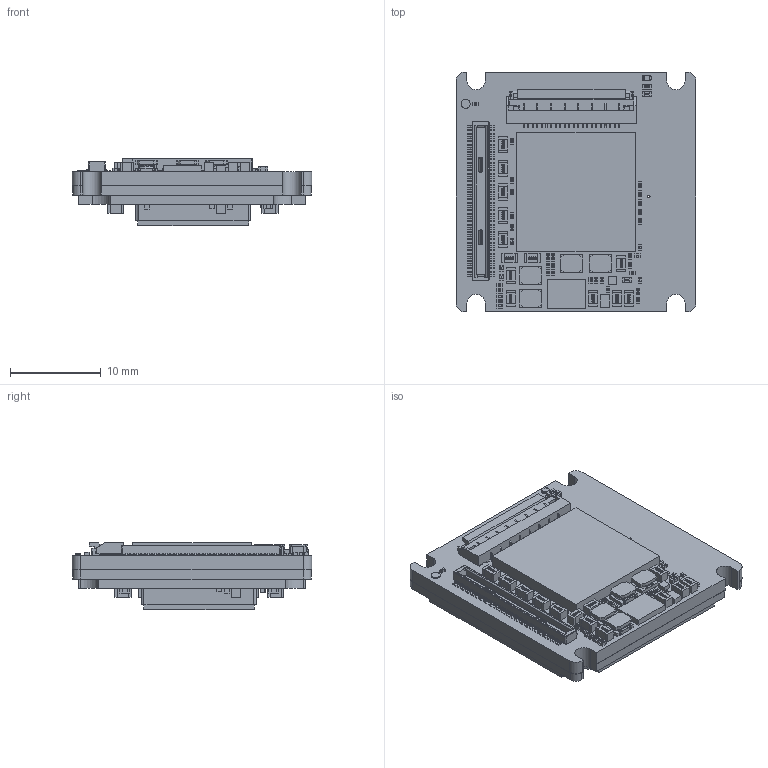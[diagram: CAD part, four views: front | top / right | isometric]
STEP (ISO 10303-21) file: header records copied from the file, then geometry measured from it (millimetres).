
FILE_DESCRIPTION (( 'STEP AP214' ), '1' );
FILE_NAME ('Alvium-CSI2-Bare-Board-E2VEV76Cx7x.STEP', '2022-10-24T11:56:58', ( '' ), ( '' ), 'SwSTEP 2.0', 'SolidWorks 2021', '' );
FILE_SCHEMA (( 'AUTOMOTIVE_DESIGN' ));
Length unit declared in the file: millimetre
Products named in the file (1): Alvium-CSI2-Bare-Board-E2VEV76Cx7x
Bounding box: 26.4 x 26.4 x 7.4 mm (x, y, z)
Volume: 3063.3 mm3; surface area: 3856.5 mm2
Topology: 114 solids, 114 shells, 7518 faces, 19509 edges, 12696 vertices
Faces by surface type: plane 4047, bspline 2760, cylinder 663, torus 28, sphere 16, cone 4
Entity records: 466874 total; most frequent: CARTESIAN_POINT 217592, ORIENTED_EDGE 38986, DIRECTION 24807, EDGE_CURVE 19493, VERTEX_POINT 12696, VECTOR 12521, LINE 12521, EDGE_LOOP 8029
